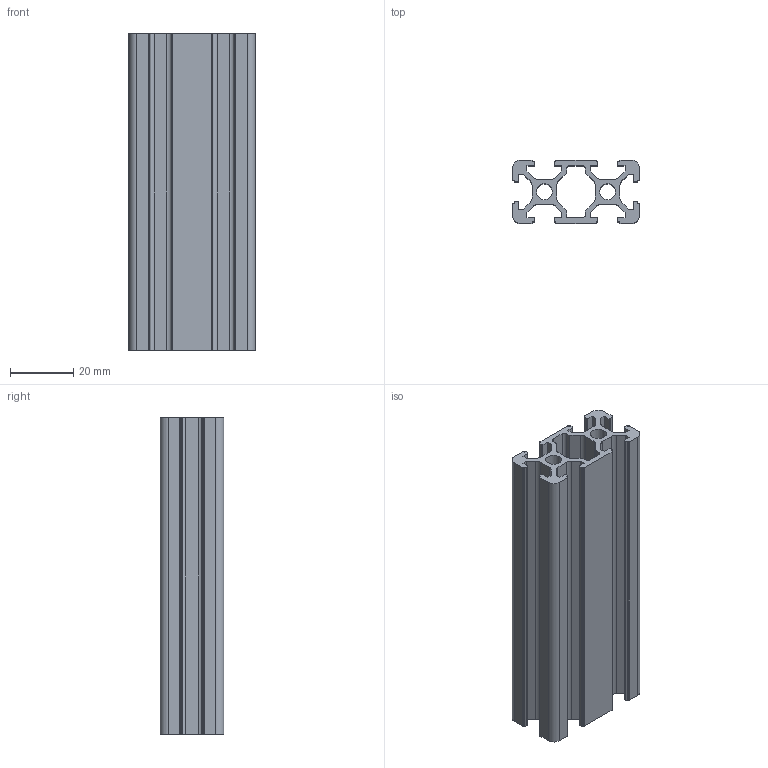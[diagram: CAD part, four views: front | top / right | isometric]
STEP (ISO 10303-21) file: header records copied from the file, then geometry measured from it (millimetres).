
FILE_DESCRIPTION((''),'2;1');
FILE_NAME('E:\catalogue and flyer\Profile catalogue 2015\profile-step file,31MAr16\PS2040-6.stp','2016-03-31T13:45:09',('h029'),(''),'Autodesk Inventor 11','Autodesk Inventor 11','');
FILE_SCHEMA(('AUTOMOTIVE_DESIGN { 1 0 10303 214 1 1 1 1 }'));
Length unit declared in the file: millimetre
Products named in the file (1): ps2040-6
Bounding box: 40 x 20 x 100 mm (x, y, z)
Volume: 29262.3 mm3; surface area: 30744.3 mm2
Topology: 1 solids, 1 shells, 168 faces, 498 edges, 332 vertices
Faces by surface type: plane 102, cylinder 66
Full cylindrical faces by diameter (mm): 5 x2
Entity records: 5659 total; most frequent: CARTESIAN_POINT 997, ORIENTED_EDGE 992, DIRECTION 966, EDGE_CURVE 496, VECTOR 364, LINE 364, VERTEX_POINT 332, AXIS2_PLACEMENT_3D 301
